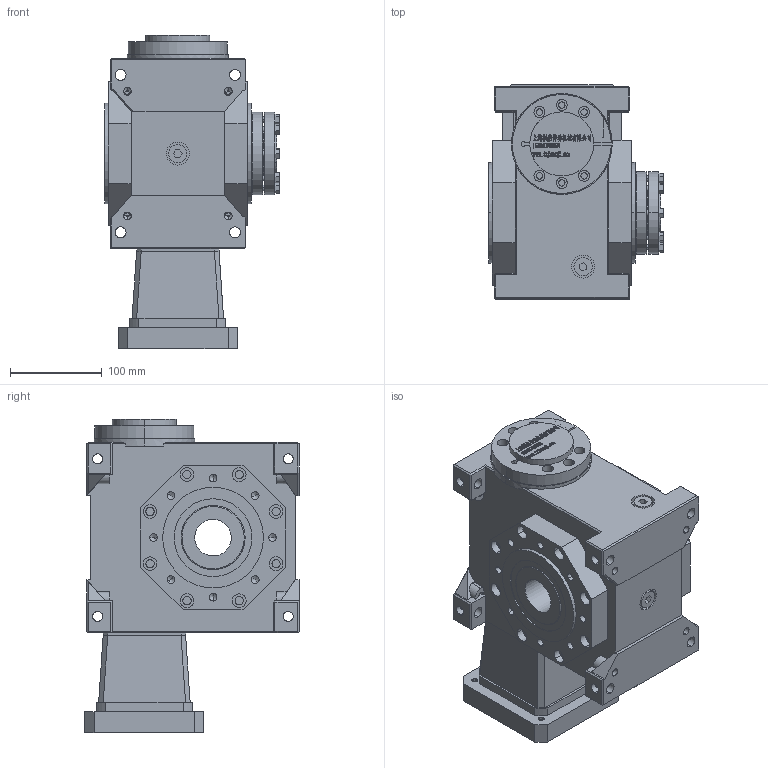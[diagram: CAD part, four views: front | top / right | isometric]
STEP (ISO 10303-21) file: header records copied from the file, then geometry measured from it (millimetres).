
FILE_DESCRIPTION (( 'STEP AP203' ), '1' );
FILE_NAME ('FXLB075-(5~90)-C1-22-110-145-M8.step', '2022-11-06T06:49:07', ( '' ), ( '' ), 'SwSTEP 2.0', 'SolidWorks 2020', '' );
FILE_SCHEMA (( 'CONFIG_CONTROL_DESIGN' ));
Length unit declared in the file: millimetre
Products named in the file (9): FXLB075-(5~90)-C1-22-110-145-M8; JDLB075-C1________40.step; JDLB075-ST105________1.step; 錨璃376^FXLB075-(5~90)-C1-22-110-145-M8; JDLB075-CR____.step; ______BD68-73.3-24-22____.step; FXLB075-(5~90)-C1-22-110-145-M8.step; ST130-110-145-M8____________.step; JDLB075-C1______-50-90-25.step
Assembly tree (8 placements, depth 3):
  FXLB075-(5~90)-C1-22-110-145-M8
    FXLB075-(5~90)-C1-22-110-145-M8.step
      JDLB075-CR____.step
      JDLB075-C1________40.step
      JDLB075-ST105________1.step
      ST130-110-145-M8____________.step
      ______BD68-73.3-24-22____.step
      JDLB075-C1______-50-90-25.step
    錨璃376^FXLB075-(5~90)-C1-22-110-145-M8
Bounding box: 191 x 234 x 342.2 mm (x, y, z)
Volume: 7027170.7 mm3; surface area: 646421.1 mm2
Topology: 85 solids, 85 shells, 2831 faces, 7351 edges, 4796 vertices
Faces by surface type: plane 1620, bspline 572, cylinder 497, cone 110, torus 32
Entity records: 117145 total; most frequent: CARTESIAN_POINT 50125, ORIENTED_EDGE 14582, DIRECTION 11705, EDGE_CURVE 7291, VECTOR 4939, LINE 4939, VERTEX_POINT 4796, AXIS2_PLACEMENT_3D 3383
